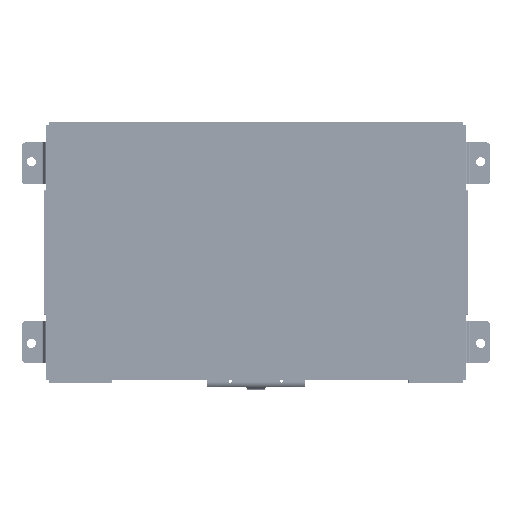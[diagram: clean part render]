
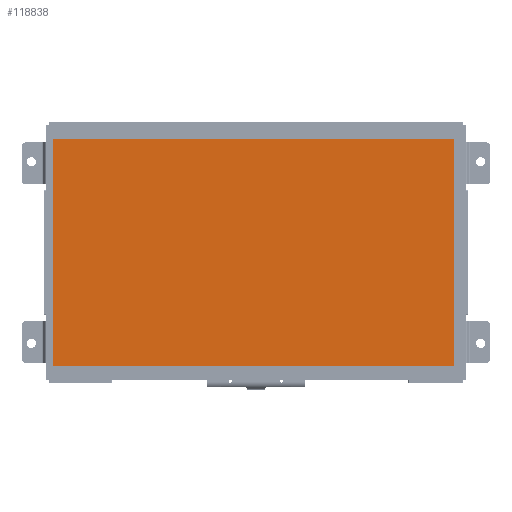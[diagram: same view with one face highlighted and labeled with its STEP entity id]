
A CAD part, top view. The second image highlights one B-rep face of the part: STEP entity #118838.
In plain terms, the highlighted planar face has unit normal (0, 0, 1).
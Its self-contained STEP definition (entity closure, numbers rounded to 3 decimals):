
#1565 = CARTESIAN_POINT ( 'NONE',  ( 51.418, 257.098, 135.6 ) ) ;
#9828 = CARTESIAN_POINT ( 'NONE',  ( 275.855, 130.098, 135.6 ) ) ;
#11953 = EDGE_CURVE ( 'NONE', #185389, #206618, #245264, .T. ) ;
#13039 = CARTESIAN_POINT ( 'NONE',  ( 51.418, 257.098, 135.6 ) ) ;
#18921 = CARTESIAN_POINT ( 'NONE',  ( 275.855, 257.098, 135.6 ) ) ;
#41200 = VERTEX_POINT ( 'NONE', #13039 ) ;
#43202 = CARTESIAN_POINT ( 'NONE',  ( 51.418, 130.098, 135.6 ) ) ;
#44698 = CARTESIAN_POINT ( 'NONE',  ( 275.855, 257.098, 135.6 ) ) ;
#48934 = CARTESIAN_POINT ( 'NONE',  ( 51.418, 257.098, 135.6 ) ) ;
#63165 = DIRECTION ( 'NONE',  ( 0., 0., 1. ) ) ;
#67117 = CARTESIAN_POINT ( 'NONE',  ( 275.855, 214.765, 135.6 ) ) ;
#71221 = CARTESIAN_POINT ( 'NONE',  ( 275.855, 172.432, 135.6 ) ) ;
#74517 = CARTESIAN_POINT ( 'NONE',  ( 126.23, 130.098, 135.6 ) ) ;
#103310 = CARTESIAN_POINT ( 'NONE',  ( 51.418, 172.432, 135.6 ) ) ;
#108511 = B_SPLINE_CURVE_WITH_KNOTS ( 'NONE', 3,
 ( #1565, #167780, #391127, #44698 ),
 .UNSPECIFIED., .F., .F.,
 ( 4, 4 ),
 ( 0., 1. ),
 .UNSPECIFIED. ) ;
#118838 = ADVANCED_FACE ( 'NONE', ( #261248 ), #321844, .T. ) ;
#163187 = CARTESIAN_POINT ( 'NONE',  ( 275.855, 130.098, 135.6 ) ) ;
#163229 = EDGE_CURVE ( 'NONE', #206618, #280958, #257081, .T. ) ;
#167780 = CARTESIAN_POINT ( 'NONE',  ( 126.23, 257.098, 135.6 ) ) ;
#185389 = VERTEX_POINT ( 'NONE', #410066 ) ;
#202459 = ORIENTED_EDGE ( 'NONE', *, *, #365823, .F. ) ;
#206618 = VERTEX_POINT ( 'NONE', #163187 ) ;
#245264 = B_SPLINE_CURVE_WITH_KNOTS ( 'NONE', 3,
 ( #43202, #74517, #364505, #9828 ),
 .UNSPECIFIED., .F., .F.,
 ( 4, 4 ),
 ( 0., 1. ),
 .UNSPECIFIED. ) ;
#250470 = AXIS2_PLACEMENT_3D ( 'NONE', #290515, #63165, #382420 ) ;
#257081 = B_SPLINE_CURVE_WITH_KNOTS ( 'NONE', 3,
 ( #288248, #71221, #67117, #321646 ),
 .UNSPECIFIED., .F., .F.,
 ( 4, 4 ),
 ( 0., 1. ),
 .UNSPECIFIED. ) ;
#261248 = FACE_OUTER_BOUND ( 'NONE', #410939, .T. ) ;
#261901 = B_SPLINE_CURVE_WITH_KNOTS ( 'NONE', 3,
 ( #366170, #103310, #268054, #48934 ),
 .UNSPECIFIED., .F., .F.,
 ( 4, 4 ),
 ( 0., 1. ),
 .UNSPECIFIED. ) ;
#268054 = CARTESIAN_POINT ( 'NONE',  ( 51.418, 214.765, 135.6 ) ) ;
#278335 = ORIENTED_EDGE ( 'NONE', *, *, #163229, .T. ) ;
#280958 = VERTEX_POINT ( 'NONE', #18921 ) ;
#288248 = CARTESIAN_POINT ( 'NONE',  ( 275.855, 130.098, 135.6 ) ) ;
#290515 = CARTESIAN_POINT ( 'NONE',  ( -6566.532, 744.27, 135.6 ) ) ;
#312159 = ORIENTED_EDGE ( 'NONE', *, *, #396264, .F. ) ;
#321646 = CARTESIAN_POINT ( 'NONE',  ( 275.855, 257.098, 135.6 ) ) ;
#321844 = PLANE ( 'NONE',  #250470 ) ;
#364505 = CARTESIAN_POINT ( 'NONE',  ( 201.043, 130.098, 135.6 ) ) ;
#365823 = EDGE_CURVE ( 'NONE', #185389, #41200, #261901, .T. ) ;
#366170 = CARTESIAN_POINT ( 'NONE',  ( 51.418, 130.098, 135.6 ) ) ;
#370523 = ORIENTED_EDGE ( 'NONE', *, *, #11953, .T. ) ;
#382420 = DIRECTION ( 'NONE',  ( 1., 0., 0. ) ) ;
#391127 = CARTESIAN_POINT ( 'NONE',  ( 201.043, 257.098, 135.6 ) ) ;
#396264 = EDGE_CURVE ( 'NONE', #41200, #280958, #108511, .T. ) ;
#410066 = CARTESIAN_POINT ( 'NONE',  ( 51.418, 130.098, 135.6 ) ) ;
#410939 = EDGE_LOOP ( 'NONE', ( #202459, #370523, #278335, #312159 ) ) ;
